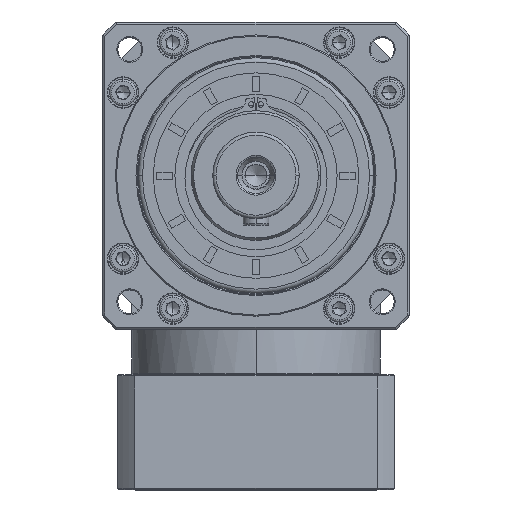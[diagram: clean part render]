
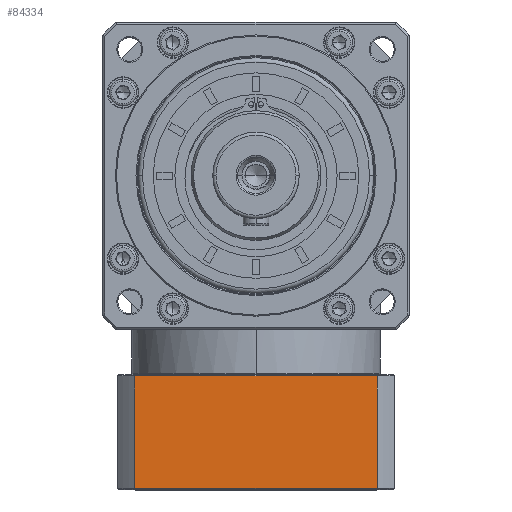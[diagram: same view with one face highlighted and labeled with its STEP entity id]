
A CAD part, top view. The second image highlights one B-rep face of the part: STEP entity #84334.
In plain terms, the highlighted planar face has unit normal (0, 0, 1).
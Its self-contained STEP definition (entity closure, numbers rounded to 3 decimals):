
#541 = DIRECTION ( 'NONE',  ( 1., 0., 0. ) ) ;
#548 = VECTOR ( 'NONE', #88488, 1000. ) ;
#9304 = FACE_OUTER_BOUND ( 'NONE', #42860, .T. ) ;
#11021 = DIRECTION ( 'NONE',  ( 0., -1., 0. ) ) ;
#21364 = VERTEX_POINT ( 'NONE', #34609 ) ;
#24852 = VECTOR ( 'NONE', #11021, 1000. ) ;
#28992 = ORIENTED_EDGE ( 'NONE', *, *, #141322, .F. ) ;
#33544 = VECTOR ( 'NONE', #541, 1000. ) ;
#34609 = CARTESIAN_POINT ( 'NONE',  ( -260.581, -18.38, 31.196 ) ) ;
#36675 = VECTOR ( 'NONE', #53437, 1000. ) ;
#37974 = PLANE ( 'NONE',  #119737 ) ;
#41137 = LINE ( 'NONE', #166826, #36675 ) ;
#42860 = EDGE_LOOP ( 'NONE', ( #28992, #110665, #178328, #83525 ) ) ;
#43397 = CARTESIAN_POINT ( 'NONE',  ( -268.644, 33.62, 31.196 ) ) ;
#53437 = DIRECTION ( 'NONE',  ( 0., 1., 0. ) ) ;
#54607 = CARTESIAN_POINT ( 'NONE',  ( -268.644, -18.88, 31.196 ) ) ;
#58923 = VERTEX_POINT ( 'NONE', #74492 ) ;
#66805 = CARTESIAN_POINT ( 'NONE',  ( -148.706, 276.94, 31.196 ) ) ;
#74492 = CARTESIAN_POINT ( 'NONE',  ( -260.581, 33.62, 31.196 ) ) ;
#75880 = LINE ( 'NONE', #66805, #24852 ) ;
#79417 = EDGE_CURVE ( 'NONE', #125739, #21364, #162272, .T. ) ;
#83525 = ORIENTED_EDGE ( 'NONE', *, *, #79417, .F. ) ;
#84334 = ADVANCED_FACE ( 'NONE', ( #9304 ), #37974, .F. ) ;
#88488 = DIRECTION ( 'NONE',  ( -1., 0., 0. ) ) ;
#109379 = EDGE_CURVE ( 'NONE', #21364, #58923, #41137, .T. ) ;
#110665 = ORIENTED_EDGE ( 'NONE', *, *, #180097, .F. ) ;
#111079 = CARTESIAN_POINT ( 'NONE',  ( -148.706, 33.62, 31.196 ) ) ;
#113452 = DIRECTION ( 'NONE',  ( 0., 0., -1. ) ) ;
#119737 = AXIS2_PLACEMENT_3D ( 'NONE', #54607, #113452, #153720 ) ;
#125739 = VERTEX_POINT ( 'NONE', #180258 ) ;
#126320 = VERTEX_POINT ( 'NONE', #111079 ) ;
#141322 = EDGE_CURVE ( 'NONE', #126320, #125739, #75880, .T. ) ;
#153720 = DIRECTION ( 'NONE',  ( -1., 0., 0. ) ) ;
#159845 = LINE ( 'NONE', #43397, #33544 ) ;
#162272 = LINE ( 'NONE', #172192, #548 ) ;
#166826 = CARTESIAN_POINT ( 'NONE',  ( -260.581, -18.88, 31.196 ) ) ;
#172192 = CARTESIAN_POINT ( 'NONE',  ( -268.644, -18.38, 31.196 ) ) ;
#178328 = ORIENTED_EDGE ( 'NONE', *, *, #109379, .F. ) ;
#180097 = EDGE_CURVE ( 'NONE', #58923, #126320, #159845, .T. ) ;
#180258 = CARTESIAN_POINT ( 'NONE',  ( -148.706, -18.38, 31.196 ) ) ;
